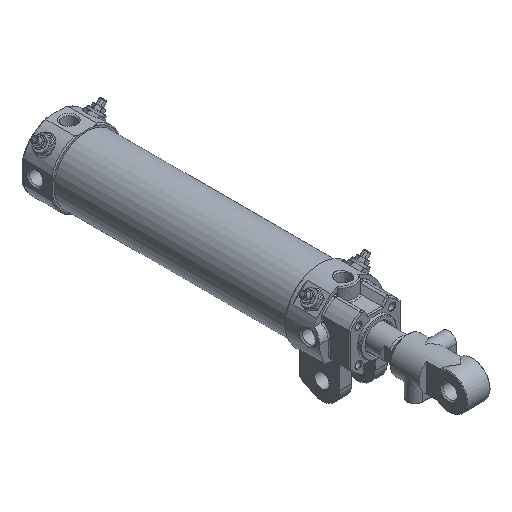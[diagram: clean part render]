
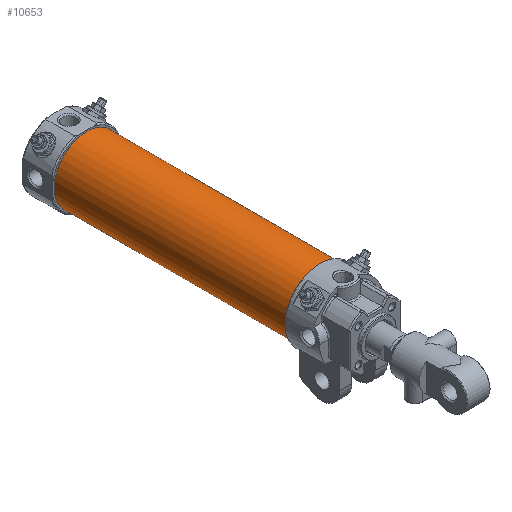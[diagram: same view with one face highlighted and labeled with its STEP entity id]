
A CAD part, isometric view. The second image highlights one B-rep face of the part: STEP entity #10653.
In plain terms, the highlighted cylindrical face has radius 27.5 mm (diameter 55 mm), a full revolution.
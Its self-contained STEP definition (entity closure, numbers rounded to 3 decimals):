
#2742=CARTESIAN_POINT('',(27.5,246.0,0.));
#2743=VERTEX_POINT('',#2742);
#2744=CARTESIAN_POINT('',(0.,246.0,0.));
#2745=DIRECTION('',(0.0,-1.0,0.0));
#2746=DIRECTION('',(-1.0,0.0,0.0));
#2747=AXIS2_PLACEMENT_3D('',#2744,#2745,#2746);
#2748=CIRCLE('',#2747,27.5);
#2749=EDGE_CURVE('',#2743,#2743,#2748,.T.);
#10630=CARTESIAN_POINT('',(27.5,50.,0.));
#10631=VERTEX_POINT('',#10630);
#10632=CARTESIAN_POINT('',(0.,50.,0.));
#10633=DIRECTION('',(0.0,-1.0,0.0));
#10634=DIRECTION('',(-1.0,0.0,0.0));
#10635=AXIS2_PLACEMENT_3D('',#10632,#10633,#10634);
#10636=CIRCLE('',#10635,27.5);
#10637=EDGE_CURVE('',#10631,#10631,#10636,.T.);
#10642=CARTESIAN_POINT('',(0.,50.,0.));
#10643=DIRECTION('',(0.0,1.0,0.));
#10644=DIRECTION('',(-1.0,0.0,0.0));
#10645=AXIS2_PLACEMENT_3D('',#10642,#10643,#10644);
#10646=CYLINDRICAL_SURFACE('',#10645,27.5);
#10647=ORIENTED_EDGE('',*,*,#2749,.T.);
#10648=EDGE_LOOP('',(#10647));
#10649=FACE_OUTER_BOUND('',#10648,.T.);
#10650=ORIENTED_EDGE('',*,*,#10637,.F.);
#10651=EDGE_LOOP('',(#10650));
#10652=FACE_BOUND('',#10651,.T.);
#10653=ADVANCED_FACE('',(#10649,#10652),#10646,.T.);
